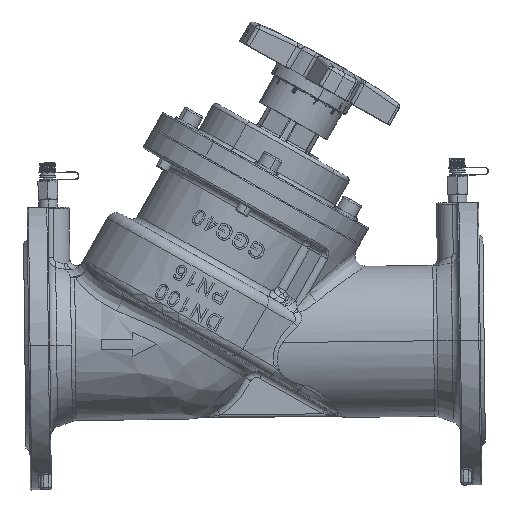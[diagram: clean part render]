
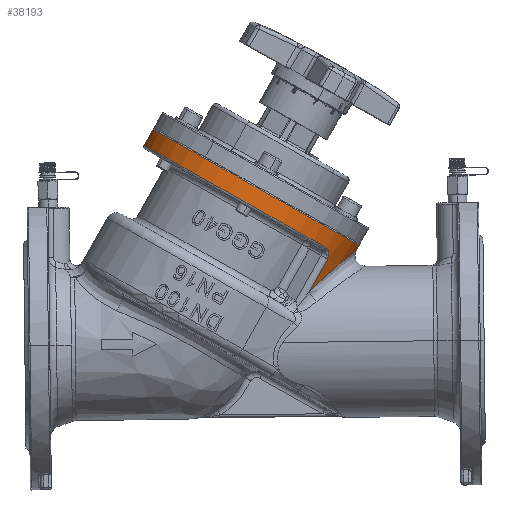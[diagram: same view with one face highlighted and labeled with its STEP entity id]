
A CAD part, top view. The second image highlights one B-rep face of the part: STEP entity #38193.
In plain terms, the highlighted cylindrical face has radius 90 mm (diameter 180 mm), a partial arc.
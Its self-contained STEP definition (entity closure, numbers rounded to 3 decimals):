
#50 = VERTEX_POINT ( 'NONE', #175199 ) ;
#4590 = ORIENTED_EDGE ( 'NONE', *, *, #142870, .T. ) ;
#6556 = CARTESIAN_POINT ( 'NONE',  ( 67.35, 60.737, 29.724 ) ) ;
#15869 = DIRECTION ( 'NONE',  ( -0.5, -0.866, 0. ) ) ;
#16024 = CARTESIAN_POINT ( 'NONE',  ( 57.165, 68.63, 53.744 ) ) ;
#16665 = LINE ( 'NONE', #199567, #67440 ) ;
#17195 = CARTESIAN_POINT ( 'NONE',  ( 56.259, 71.146, 56.386 ) ) ;
#19863 = CIRCLE ( 'NONE', #72573, 90. ) ;
#23120 = CARTESIAN_POINT ( 'NONE',  ( 58.328, 53.144, 39.361 ) ) ;
#24148 = CARTESIAN_POINT ( 'NONE',  ( 56.729, 64.088, 51.102 ) ) ;
#24289 = CARTESIAN_POINT ( 'NONE',  ( 59.283, 53.964, 38.494 ) ) ;
#26165 = CARTESIAN_POINT ( 'NONE',  ( 72.57, 59.694, 0. ) ) ;
#30100 = CARTESIAN_POINT ( 'NONE',  ( 78.21, 69.484, 1.532 ) ) ;
#37184 = CARTESIAN_POINT ( 'NONE',  ( 57.217, 67.62, 52.998 ) ) ;
#38193 = ADVANCED_FACE ( 'NONE', ( #50997 ), #89896, .T. ) ;
#39662 = CARTESIAN_POINT ( 'NONE',  ( 42.313, 38.561, 50.696 ) ) ;
#41028 = VECTOR ( 'NONE', #15869, 1000. ) ;
#41394 = VERTEX_POINT ( 'NONE', #150577 ) ;
#44288 = CARTESIAN_POINT ( 'NONE',  ( 75.085, 67.004, 16.25 ) ) ;
#44927 = VERTEX_POINT ( 'NONE', #227130 ) ;
#45461 = CARTESIAN_POINT ( 'NONE',  ( 76.933, 68.474, 10.571 ) ) ;
#50997 = FACE_OUTER_BOUND ( 'NONE', #157312, .T. ) ;
#52845 = EDGE_CURVE ( 'NONE', #225182, #103189, #195309, .T. ) ;
#53750 = CARTESIAN_POINT ( 'NONE',  ( 57.126, 66.326, 52.209 ) ) ;
#54385 = DIRECTION ( 'NONE',  ( 0.5, 0.866, 0. ) ) ;
#54508 = VECTOR ( 'NONE', #132387, 1000. ) ;
#56196 = ORIENTED_EDGE ( 'NONE', *, *, #52845, .T. ) ;
#58023 = VERTEX_POINT ( 'NONE', #123421 ) ;
#58544 = CARTESIAN_POINT ( 'NONE',  ( 52.444, 47.989, 44.192 ) ) ;
#61884 = CARTESIAN_POINT ( 'NONE',  ( 56.528, 63.182, 50.696 ) ) ;
#67176 = ORIENTED_EDGE ( 'NONE', *, *, #206082, .T. ) ;
#67440 = VECTOR ( 'NONE', #54385, 1000. ) ;
#69327 = VERTEX_POINT ( 'NONE', #146669 ) ;
#72573 = AXIS2_PLACEMENT_3D ( 'NONE', #91112, #183205, #165487 ) ;
#76246 = CARTESIAN_POINT ( 'NONE',  ( 44.358, 40.544, 49.553 ) ) ;
#80890 = CARTESIAN_POINT ( 'NONE',  ( 74.811, 66.785, 16.931 ) ) ;
#81692 = ORIENTED_EDGE ( 'NONE', *, *, #107961, .T. ) ;
#83663 = DIRECTION ( 'NONE',  ( -0.866, 0.5, 0. ) ) ;
#84383 = CARTESIAN_POINT ( 'NONE',  ( 70.154, 63.032, 25.752 ) ) ;
#84457 = CIRCLE ( 'NONE', #163667, 90. ) ;
#88641 = B_SPLINE_CURVE_WITH_KNOTS ( 'NONE', 3,
 ( #39662, #76246, #220289, #114007, #58544, #130524, #202553, #23120, #24289, #96248, #168302, #150554, #6556, #222601, #154042, #206030, #84383, #99748, #100902, #80890, #44288, #136327, #210685, #151721, #45461, #156368, #135159, #228393, #137496, #30100, #207193, #169465 ),
 .UNSPECIFIED., .F., .F.,
 ( 4, 2, 2, 2, 2, 2, 2, 2, 2, 2, 2, 2, 2, 2, 2, 4 ),
 ( 0., 0.009, 0.018, 0.023, 0.028, 0.037, 0.041, 0.044, 0.046, 0.055, 0.057, 0.06, 0.064, 0.069, 0.071, 0.073 ),
 .UNSPECIFIED. ) ;
#89896 = CYLINDRICAL_SURFACE ( 'NONE', #161482, 90. ) ;
#90319 = CARTESIAN_POINT ( 'NONE',  ( 55.278, 71.987, 57.929 ) ) ;
#91112 = CARTESIAN_POINT ( 'NONE',  ( -4.373, 106.426, 0. ) ) ;
#93040 = ORIENTED_EDGE ( 'NONE', *, *, #203047, .T. ) ;
#96248 = CARTESIAN_POINT ( 'NONE',  ( 62.098, 56.365, 35.803 ) ) ;
#99748 = CARTESIAN_POINT ( 'NONE',  ( 72.03, 64.556, 22.788 ) ) ;
#100902 = CARTESIAN_POINT ( 'NONE',  ( 73.378, 65.639, 20.282 ) ) ;
#103189 = VERTEX_POINT ( 'NONE', #160136 ) ;
#105289 = CARTESIAN_POINT ( 'NONE',  ( -5.373, 104.694, 0. ) ) ;
#107961 = EDGE_CURVE ( 'NONE', #41394, #50, #84457, .T. ) ;
#112707 = CARTESIAN_POINT ( 'NONE',  ( 56.777, 64.314, 51.205 ) ) ;
#114007 = CARTESIAN_POINT ( 'NONE',  ( 50.439, 46.186, 45.635 ) ) ;
#123421 = CARTESIAN_POINT ( 'NONE',  ( 55.278, 71.987, 57.929 ) ) ;
#126897 = CARTESIAN_POINT ( 'NONE',  ( 56.771, 70.261, 55.266 ) ) ;
#130524 = CARTESIAN_POINT ( 'NONE',  ( 55.41, 50.606, 41.85 ) ) ;
#132387 = DIRECTION ( 'NONE',  ( 0.5, 0.866, 0. ) ) ;
#135159 = CARTESIAN_POINT ( 'NONE',  ( 77.815, 69.172, 6.129 ) ) ;
#136327 = CARTESIAN_POINT ( 'NONE',  ( 75.605, 67.419, 14.864 ) ) ;
#137496 = CARTESIAN_POINT ( 'NONE',  ( 78.127, 69.418, 3.072 ) ) ;
#137934 = DIRECTION ( 'NONE',  ( -0.5, -0.866, 0. ) ) ;
#142870 = EDGE_CURVE ( 'NONE', #69327, #58023, #19863, .T. ) ;
#143443 = CARTESIAN_POINT ( 'NONE',  ( 56.897, 69.93, 54.91 ) ) ;
#146669 = CARTESIAN_POINT ( 'NONE',  ( -82.315, 151.426, 0. ) ) ;
#149255 = CARTESIAN_POINT ( 'NONE',  ( 56.63, 63.635, 50.898 ) ) ;
#150554 = CARTESIAN_POINT ( 'NONE',  ( 66.507, 60.042, 30.793 ) ) ;
#150577 = CARTESIAN_POINT ( 'NONE',  ( 80.57, 73.551, 0. ) ) ;
#151721 = CARTESIAN_POINT ( 'NONE',  ( 76.542, 68.164, 12.02 ) ) ;
#154042 = CARTESIAN_POINT ( 'NONE',  ( 68.981, 62.075, 27.487 ) ) ;
#156368 = CARTESIAN_POINT ( 'NONE',  ( 77.57, 68.978, 7.626 ) ) ;
#157312 = EDGE_LOOP ( 'NONE', ( #93040, #171946, #81692, #182328, #4590, #67176, #56196 ) ) ;
#158685 = CARTESIAN_POINT ( 'NONE',  ( 59.028, 67.512, 50.696 ) ) ;
#159596 = DIRECTION ( 'NONE',  ( -0.866, 0.5, 0. ) ) ;
#160029 = CARTESIAN_POINT ( 'NONE',  ( 57.173, 66.765, 52.46 ) ) ;
#160136 = CARTESIAN_POINT ( 'NONE',  ( 42.313, 38.561, 50.696 ) ) ;
#160745 = DIRECTION ( 'NONE',  ( 0.5, 0.866, 0. ) ) ;
#161482 = AXIS2_PLACEMENT_3D ( 'NONE', #105289, #160745, #159596 ) ;
#162328 = CARTESIAN_POINT ( 'NONE',  ( 55.813, 71.622, 57.154 ) ) ;
#163667 = AXIS2_PLACEMENT_3D ( 'NONE', #174565, #137934, #83663 ) ;
#164668 = CARTESIAN_POINT ( 'NONE',  ( 56.453, 70.869, 56.003 ) ) ;
#165487 = DIRECTION ( 'NONE',  ( -0.866, 0.5, 0. ) ) ;
#168302 = CARTESIAN_POINT ( 'NONE',  ( 63.912, 57.888, 33.888 ) ) ;
#169465 = CARTESIAN_POINT ( 'NONE',  ( 78.231, 69.5, 0. ) ) ;
#170191 = LINE ( 'NONE', #26165, #54508 ) ;
#171946 = ORIENTED_EDGE ( 'NONE', *, *, #213875, .T. ) ;
#174565 = CARTESIAN_POINT ( 'NONE',  ( 2.627, 118.551, 0. ) ) ;
#175199 = CARTESIAN_POINT ( 'NONE',  ( -75.315, 163.551, 0. ) ) ;
#177760 = CARTESIAN_POINT ( 'NONE',  ( 57.079, 69.206, 54.228 ) ) ;
#181212 = CARTESIAN_POINT ( 'NONE',  ( 56.997, 65.44, 51.74 ) ) ;
#182328 = ORIENTED_EDGE ( 'NONE', *, *, #201488, .F. ) ;
#182398 = CARTESIAN_POINT ( 'NONE',  ( 55.561, 71.823, 57.54 ) ) ;
#183205 = DIRECTION ( 'NONE',  ( 0.5, 0.866, 0. ) ) ;
#184711 = CARTESIAN_POINT ( 'NONE',  ( 56.579, 63.407, 50.796 ) ) ;
#195309 = LINE ( 'NONE', #158685, #41028 ) ;
#198924 = CARTESIAN_POINT ( 'NONE',  ( 57.214, 68.033, 53.285 ) ) ;
#199567 = CARTESIAN_POINT ( 'NONE',  ( -83.315, 149.694, 0. ) ) ;
#201261 = CARTESIAN_POINT ( 'NONE',  ( 57.039, 69.392, 54.397 ) ) ;
#201488 = EDGE_CURVE ( 'NONE', #69327, #50, #16665, .T. ) ;
#202421 = CARTESIAN_POINT ( 'NONE',  ( 56.915, 64.991, 51.521 ) ) ;
#202553 = CARTESIAN_POINT ( 'NONE',  ( 56.393, 51.466, 41.038 ) ) ;
#203047 = EDGE_CURVE ( 'NONE', #103189, #44927, #88641, .T. ) ;
#206030 = CARTESIAN_POINT ( 'NONE',  ( 69.769, 62.718, 26.336 ) ) ;
#206082 = EDGE_CURVE ( 'NONE', #58023, #225182, #223040, .T. ) ;
#207193 = CARTESIAN_POINT ( 'NONE',  ( 78.231, 69.5, 0.765 ) ) ;
#210685 = CARTESIAN_POINT ( 'NONE',  ( 75.852, 67.615, 14.157 ) ) ;
#213875 = EDGE_CURVE ( 'NONE', #44927, #41394, #170191, .T. ) ;
#215484 = CARTESIAN_POINT ( 'NONE',  ( 57.142, 68.825, 53.902 ) ) ;
#220289 = CARTESIAN_POINT ( 'NONE',  ( 46.396, 42.464, 48.315 ) ) ;
#221455 = CARTESIAN_POINT ( 'NONE',  ( 56.528, 63.182, 50.696 ) ) ;
#222601 = CARTESIAN_POINT ( 'NONE',  ( 68.577, 61.745, 28.055 ) ) ;
#223040 = B_SPLINE_CURVE_WITH_KNOTS ( 'NONE', 3,
 ( #90319, #182398, #162328, #17195, #164668, #126897, #143443, #201261, #177760, #215484, #16024, #198924, #37184, #160029, #53750, #181212, #202421, #112707, #24148, #149255, #184711, #61884 ),
 .UNSPECIFIED., .F., .F.,
 ( 4, 2, 2, 2, 2, 2, 2, 2, 2, 2, 4 ),
 ( 0., 0.002, 0.003, 0.005, 0.005, 0.006, 0.008, 0.009, 0.011, 0.011, 0.012 ),
 .UNSPECIFIED. ) ;
#225182 = VERTEX_POINT ( 'NONE', #221455 ) ;
#227130 = CARTESIAN_POINT ( 'NONE',  ( 78.231, 69.5, 0. ) ) ;
#228393 = CARTESIAN_POINT ( 'NONE',  ( 78.064, 69.368, 3.843 ) ) ;
